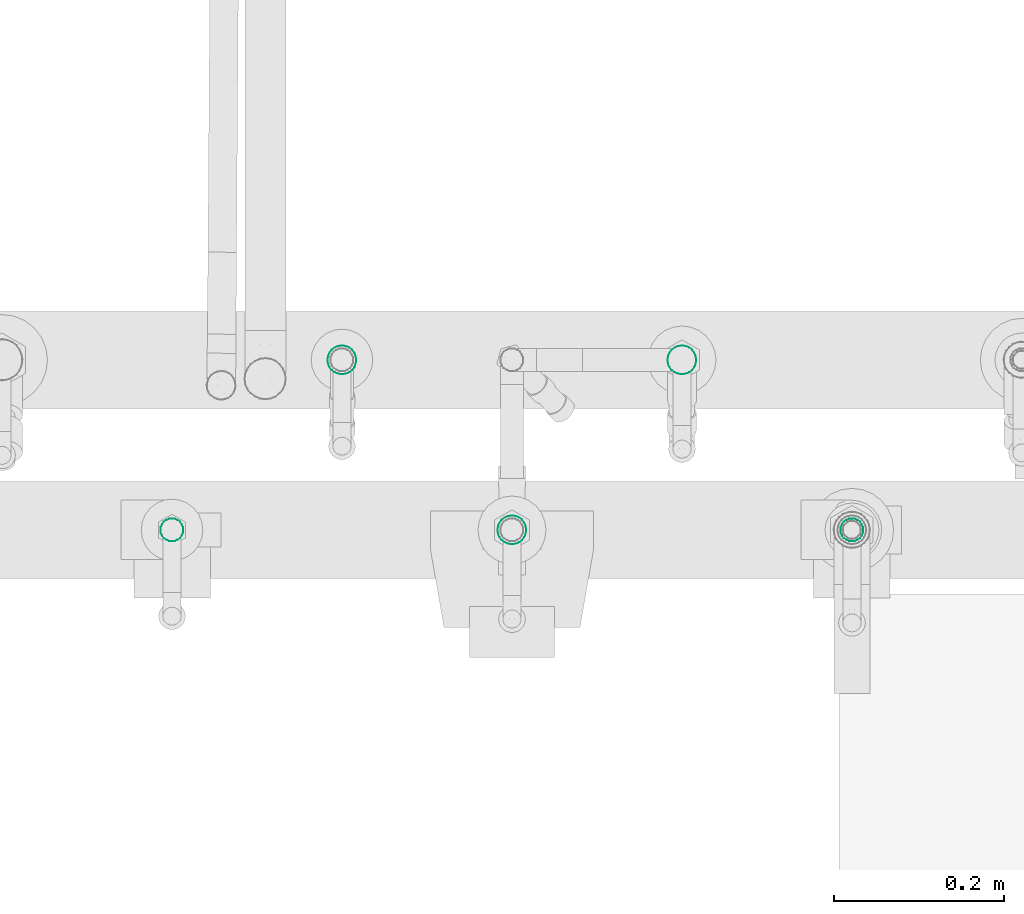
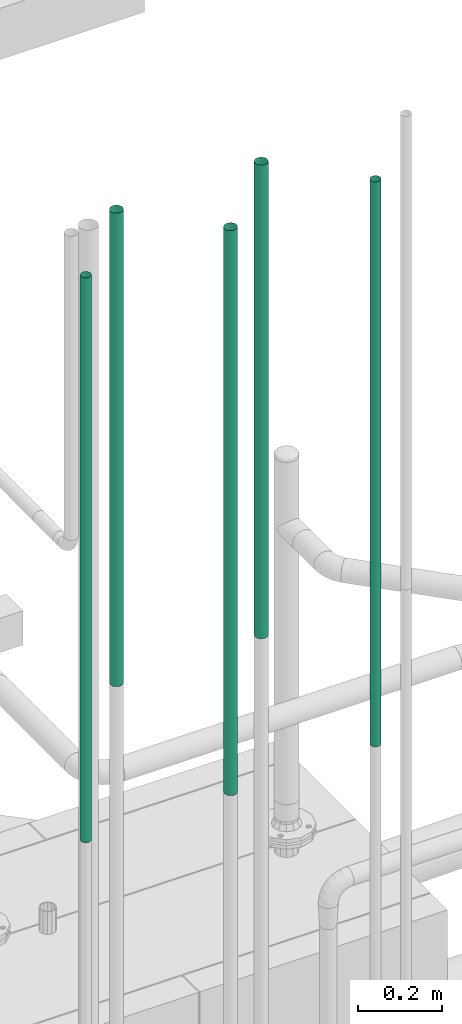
# One storey, part 9 of 374: 5 flow segments.
"""IFC2X3 building model written with IfcOpenShell, lengths in metres."""

from ifc_helpers import new_model, si_unit, direction, origin, place, context, subcontext, project, spatial, open_shell, surface_model, source, transform, mapped, element, save


model = new_model("IFC2X3")

# Units and contexts
model_context = context("Model", 3, precision=1e-05, world=origin(), true_north=direction((-0.4480736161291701, 0.8939966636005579)))
body_context = subcontext(model_context, "Body", "Model", "MODEL_VIEW")
ifc_project = project(units=[si_unit("LENGTHUNIT", "METRE"), si_unit("AREAUNIT", "SQUARE_METRE"), si_unit("VOLUMEUNIT", "CUBIC_METRE"), si_unit("PLANEANGLEUNIT", "RADIAN"), si_unit("THERMODYNAMICTEMPERATUREUNIT", "KELVIN"), si_unit("MASSUNIT", "GRAM", prefix="KILO"), si_unit("TIMEUNIT", "SECOND")], contexts=[model_context])

# Site, building, storey
site_placement = place(None, origin())
site = spatial("IfcSite", under=ifc_project, at=site_placement, Name="Site 1", CompositionType="ELEMENT")
building_placement = place(site_placement, origin())
building = spatial("IfcBuilding", under=site, at=building_placement, Name="Undefined", CompositionType="ELEMENT")
storey_placement = place(building_placement, origin())
storey = spatial("IfcBuildingStorey", under=building, at=storey_placement, Name="Rez de chauss\x8ee", CompositionType="ELEMENT", Elevation=0.0)

# Flow segments
shared_shape_1 = source(origin(), body_context, "Body", "SurfaceModel", [
    surface_model("IfcFaceBasedSurfaceModel", [(0.0, 0.0035111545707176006, 0.0), (0.0, 0.0, 0.0), (1.649798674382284, 0.0, 0.0), (1.649798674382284, 0.003511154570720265, 0.0), (0.0, -0.003391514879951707, -0.0009087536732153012), (1.649798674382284, -0.0033915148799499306, -0.0009087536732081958), (0.0, -0.006432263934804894, -0.0026643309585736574), (1.649798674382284, -0.006432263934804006, -0.002664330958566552), (0.0, -0.00891502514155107, -0.005147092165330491), (1.649798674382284, -0.008915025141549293, -0.005147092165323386), (0.0, -0.010670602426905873, -0.008187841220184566), (1.649798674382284, -0.010670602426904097, -0.008187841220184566), (0.0, -0.011579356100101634, -0.01157935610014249), (1.649798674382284, -0.011579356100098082, -0.011579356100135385), (0.0, -0.011579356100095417, -0.015090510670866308), (1.649798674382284, -0.011579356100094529, -0.015090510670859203), (0.0, -0.010670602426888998, -0.018482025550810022), (1.649798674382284, -0.010670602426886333, -0.018482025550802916), (0.0, -0.008915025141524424, -0.021522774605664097), (1.649798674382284, -0.008915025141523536, -0.021522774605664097), (0.0, -0.006432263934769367, -0.02400553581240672), (1.649798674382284, -0.006432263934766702, -0.024005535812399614), (0.0, -0.0033915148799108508, -0.025761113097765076), (1.649798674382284, -0.0033915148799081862, -0.025761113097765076), (0.0, 4.2632564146e-14, -0.026669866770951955), (1.649798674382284, 4.6185277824e-14, -0.026669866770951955), (0.0, 0.0035111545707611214, -0.026669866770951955), (1.649798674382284, 0.0035111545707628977, -0.026669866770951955), (0.0, 0.006902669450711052, -0.02576111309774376), (1.649798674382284, 0.006902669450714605, -0.025761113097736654), (0.0, 0.00994341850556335, -0.024005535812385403), (1.649798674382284, 0.009943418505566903, -0.024005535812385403), (0.0, 0.012426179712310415, -0.02152277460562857), (1.649798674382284, 0.012426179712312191, -0.021522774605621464), (0.0, 0.014181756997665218, -0.018482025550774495), (1.649798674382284, 0.014181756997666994, -0.01848202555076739), (0.0, 0.015090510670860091, -0.01509051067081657), (1.649798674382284, 0.015090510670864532, -0.015090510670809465), (0.0, 0.015090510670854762, -0.011579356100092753), (1.649798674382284, 0.015090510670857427, -0.011579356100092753), (0.0, 0.014181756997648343, -0.00818784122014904), (1.649798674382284, 0.01418175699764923, -0.008187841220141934), (0.0, 0.012426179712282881, -0.005147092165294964), (1.649798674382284, 0.012426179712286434, -0.005147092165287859), (0.0, 0.009943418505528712, -0.002664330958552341), (1.649798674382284, 0.009943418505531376, -0.0026643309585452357), (0.0, 0.006902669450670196, -0.0009087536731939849), (1.649798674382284, 0.006902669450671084, -0.0009087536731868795)], [open_shell([[[0, 1, 2, 3]], [[1, 4, 5, 2]], [[4, 6, 7, 5]], [[6, 8, 9, 7]], [[8, 10, 11, 9]], [[10, 12, 13, 11]], [[12, 14, 15, 13]], [[14, 16, 17, 15]], [[16, 18, 19, 17]], [[18, 20, 21, 19]], [[20, 22, 23, 21]], [[22, 24, 25, 23]], [[24, 26, 27, 25]], [[26, 28, 29, 27]], [[28, 30, 31, 29]], [[30, 32, 33, 31]], [[32, 34, 35, 33]], [[34, 36, 37, 35]], [[36, 38, 39, 37]], [[38, 40, 41, 39]], [[40, 42, 43, 41]], [[42, 44, 45, 43]], [[44, 46, 47, 45]], [[46, 0, 3, 47]]])]),
])
flow_segment_1_placement = place(storey_placement, origin())
element("IfcFlowSegment", 1, at=flow_segment_1_placement, inside=storey, Name="Tube acier d'après DIN 2448", ObjectType="Tube acier d'après DIN 2448", context=body_context, shape_type="MappedRepresentation", body=[
    mapped(shared_shape_1, transform((53.644570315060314, 10.714555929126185, 3.350201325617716), x_axis=(0.0, 0.0, 1.0), y_axis=(-0.13052619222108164, 0.9914448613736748, 0.0), z_axis=(-0.9914448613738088, -0.13052619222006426, 0.0))),
])
flow_segment_2_placement = place(storey_placement, origin())
element("IfcFlowSegment", 2, at=flow_segment_2_placement, inside=storey, Name="Tube acier d'après DIN 2448", ObjectType="Tube acier d'après DIN 2448", context=body_context, shape_type="MappedRepresentation", body=[
    mapped(shared_shape_1, transform((52.87055371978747, 10.72151816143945, 3.350201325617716), x_axis=(0.0, 0.0, 1.0), y_axis=(0.13052619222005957, -0.9914448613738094, 0.0), z_axis=(0.9914448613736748, 0.13052619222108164, 0.0))),
])
shared_shape_2 = source(origin(), body_context, "Body", "SurfaceModel", [
    surface_model("IfcFaceBasedSurfaceModel", [(0.0, 0.004398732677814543, 0.0), (0.0, 0.0, 0.0), (1.3829000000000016, -8.8817842e-16, 0.0), (1.3829000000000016, 0.004398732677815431, 7.105427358e-15), (0.0, -0.004248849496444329, -0.00113847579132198), (1.3829000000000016, -0.0042488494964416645, -0.001138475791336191), (0.0, -0.008058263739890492, -0.003337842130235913), (1.3829000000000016, -0.008058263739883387, -0.0033378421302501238), (0.0, -0.01116863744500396, -0.0064482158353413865), (1.3829000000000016, -0.011168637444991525, -0.006448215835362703), (0.0, -0.013368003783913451, -0.010257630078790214), (1.3829000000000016, -0.013368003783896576, -0.01025763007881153), (0.0, -0.014506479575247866, -0.014506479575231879), (1.3829000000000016, -0.014506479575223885, -0.0145064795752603), (0.0, -0.01450647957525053, -0.01890521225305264), (1.3829000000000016, -0.014506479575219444, -0.01890521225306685), (0.0, -0.013368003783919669, -0.023154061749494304), (1.3829000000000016, -0.013368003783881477, -0.02315406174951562), (0.0, -0.011168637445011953, -0.02696347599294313), (1.3829000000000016, -0.011168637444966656, -0.026963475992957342), (0.0, -0.008058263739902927, -0.03007384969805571), (1.3829000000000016, -0.008058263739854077, -0.030073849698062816), (0.0, -0.004248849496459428, -0.03227321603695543), (1.3829000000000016, -0.004248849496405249, -0.03227321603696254), (0.0, -1.5099033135e-14, -0.03341169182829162), (1.3829000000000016, 3.8191672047e-14, -0.03341169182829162), (0.0, 0.00439873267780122, -0.03341169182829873), (1.3829000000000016, 0.004398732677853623, -0.03341169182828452), (0.0, 0.008647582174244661, -0.03227321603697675), (1.3829000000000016, 0.008647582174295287, -0.03227321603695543), (0.0, 0.012456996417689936, -0.030073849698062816), (1.3829000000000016, 0.01245699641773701, -0.0300738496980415), (0.0, 0.01556737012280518, -0.026963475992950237), (1.3829000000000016, 0.015567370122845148, -0.02696347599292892), (0.0, 0.017766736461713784, -0.023154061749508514), (1.3829000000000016, 0.017766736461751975, -0.023154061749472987), (0.0, 0.018905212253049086, -0.01890521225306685), (1.3829000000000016, 0.018905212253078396, -0.018905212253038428), (0.0, 0.018905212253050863, -0.01450647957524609), (1.3829000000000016, 0.018905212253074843, -0.014506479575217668), (0.0, 0.01776673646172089, -0.01025763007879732), (1.3829000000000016, 0.0177667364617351, -0.010257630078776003), (0.0, 0.015567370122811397, -0.006448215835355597), (1.3829000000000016, 0.015567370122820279, -0.006448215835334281), (0.0, 0.012456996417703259, -0.0033378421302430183), (1.3829000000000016, 0.0124569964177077, -0.0033378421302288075), (0.0, 0.00864758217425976, -0.0011384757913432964), (1.3829000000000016, 0.00864758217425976, -0.0011384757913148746)], [open_shell([[[0, 1, 2, 3]], [[1, 4, 5, 2]], [[4, 6, 7, 5]], [[6, 8, 9, 7]], [[8, 10, 11, 9]], [[10, 12, 13, 11]], [[12, 14, 15, 13]], [[14, 16, 17, 15]], [[16, 18, 19, 17]], [[18, 20, 21, 19]], [[20, 22, 23, 21]], [[22, 24, 25, 23]], [[24, 26, 27, 25]], [[26, 28, 29, 27]], [[28, 30, 31, 29]], [[30, 32, 33, 31]], [[32, 34, 35, 33]], [[34, 36, 37, 35]], [[36, 38, 39, 37]], [[38, 40, 41, 39]], [[40, 42, 43, 41]], [[42, 44, 45, 43]], [[44, 46, 47, 45]], [[46, 0, 3, 47]]])]),
])
flow_segment_3_placement = place(storey_placement, origin())
element("IfcFlowSegment", 3, at=flow_segment_3_placement, inside=storey, Name="Tube acier d'après DIN 2448", ObjectType="Tube acier d'après DIN 2448", context=body_context, shape_type="MappedRepresentation", body=[
    mapped(shared_shape_2, transform((53.44128616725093, 10.913675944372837, 3.6170999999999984), x_axis=(0.0, 0.0, 1.0), y_axis=(-0.13052619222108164, 0.9914448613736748, 0.0), z_axis=(-0.9914448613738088, -0.13052619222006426, 0.0))),
])
flow_segment_4_placement = place(storey_placement, origin())
element("IfcFlowSegment", 4, at=flow_segment_4_placement, inside=storey, Name="Tube acier d'après DIN 2448", ObjectType="Tube acier d'après DIN 2448", context=body_context, shape_type="MappedRepresentation", body=[
    mapped(shared_shape_2, transform((53.04128616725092, 10.913675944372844, 3.6170999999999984), x_axis=(0.0, 0.0, 1.0), y_axis=(-0.13052619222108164, 0.9914448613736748, 0.0), z_axis=(-0.9914448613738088, -0.13052619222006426, 0.0))),
])
shared_shape_3 = source(origin(), body_context, "Body", "SurfaceModel", [
    surface_model("IfcFaceBasedSurfaceModel", [(0.0, 0.004398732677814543, 0.0), (0.0, 0.0, 0.0), (1.649798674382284, 0.0, 0.0), (1.649798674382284, 0.004398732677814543, 0.0), (0.0, -0.004248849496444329, -0.00113847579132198), (1.649798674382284, -0.004248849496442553, -0.0011384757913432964), (0.0, -0.008058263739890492, -0.003337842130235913), (1.649798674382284, -0.008058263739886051, -0.003337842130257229), (0.0, -0.01116863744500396, -0.0064482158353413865), (1.649798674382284, -0.01116863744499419, -0.006448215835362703), (0.0, -0.013368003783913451, -0.010257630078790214), (1.649798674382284, -0.013368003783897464, -0.010257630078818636), (0.0, -0.014506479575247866, -0.014506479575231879), (1.649798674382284, -0.014506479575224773, -0.0145064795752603), (0.0, -0.01450647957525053, -0.01890521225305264), (1.649798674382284, -0.014506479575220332, -0.018905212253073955), (0.0, -0.013368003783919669, -0.023154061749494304), (1.649798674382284, -0.013368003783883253, -0.023154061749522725), (0.0, -0.011168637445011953, -0.02696347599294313), (1.649798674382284, -0.011168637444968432, -0.026963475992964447), (0.0, -0.008058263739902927, -0.03007384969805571), (1.649798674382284, -0.008058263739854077, -0.03007384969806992), (0.0, -0.004248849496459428, -0.03227321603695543), (1.649798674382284, -0.004248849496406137, -0.03227321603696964), (0.0, -1.5099033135e-14, -0.03341169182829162), (1.649798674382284, 3.8191672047e-14, -0.03341169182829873), (0.0, 0.00439873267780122, -0.03341169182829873), (1.649798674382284, 0.004398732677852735, -0.03341169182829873), (0.0, 0.008647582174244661, -0.03227321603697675), (1.649798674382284, 0.008647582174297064, -0.03227321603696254), (0.0, 0.012456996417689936, -0.030073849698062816), (1.649798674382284, 0.012456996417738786, -0.0300738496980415), (0.0, 0.01556737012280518, -0.026963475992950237), (1.649798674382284, 0.015567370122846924, -0.026963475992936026), (0.0, 0.017766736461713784, -0.023154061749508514), (1.649798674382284, 0.01776673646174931, -0.023154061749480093), (0.0, 0.018905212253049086, -0.01890521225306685), (1.649798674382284, 0.018905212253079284, -0.018905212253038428), (0.0, 0.018905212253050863, -0.01450647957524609), (1.649798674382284, 0.01890521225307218, -0.014506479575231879), (0.0, 0.01776673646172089, -0.01025763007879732), (1.649798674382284, 0.017766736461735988, -0.010257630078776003), (0.0, 0.015567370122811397, -0.006448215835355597), (1.649798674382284, 0.015567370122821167, -0.006448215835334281), (0.0, 0.012456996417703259, -0.0033378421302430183), (1.649798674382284, 0.012456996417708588, -0.003337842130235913), (0.0, 0.00864758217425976, -0.0011384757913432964), (1.649798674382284, 0.00864758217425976, -0.0011384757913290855)], [open_shell([[[0, 1, 2, 3]], [[1, 4, 5, 2]], [[4, 6, 7, 5]], [[6, 8, 9, 7]], [[8, 10, 11, 9]], [[10, 12, 13, 11]], [[12, 14, 15, 13]], [[14, 16, 17, 15]], [[16, 18, 19, 17]], [[18, 20, 21, 19]], [[20, 22, 23, 21]], [[22, 24, 25, 23]], [[24, 26, 27, 25]], [[26, 28, 29, 27]], [[28, 30, 31, 29]], [[30, 32, 33, 31]], [[32, 34, 35, 33]], [[34, 36, 37, 35]], [[36, 38, 39, 37]], [[38, 40, 41, 39]], [[40, 42, 43, 41]], [[42, 44, 45, 43]], [[44, 46, 47, 45]], [[46, 0, 3, 47]]])]),
])
flow_segment_5_placement = place(storey_placement, origin())
element("IfcFlowSegment", 5, at=flow_segment_5_placement, inside=storey, Name="Tube acier d'après DIN 2448", ObjectType="Tube acier d'après DIN 2448", context=body_context, shape_type="MappedRepresentation", body=[
    mapped(shared_shape_3, transform((53.27383786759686, 10.722398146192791, 3.350201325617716), x_axis=(0.0, 0.0, 1.0), y_axis=(0.13052619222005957, -0.9914448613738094, 0.0), z_axis=(0.9914448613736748, 0.13052619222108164, 0.0))),
])

save(model, "model.ifc")
